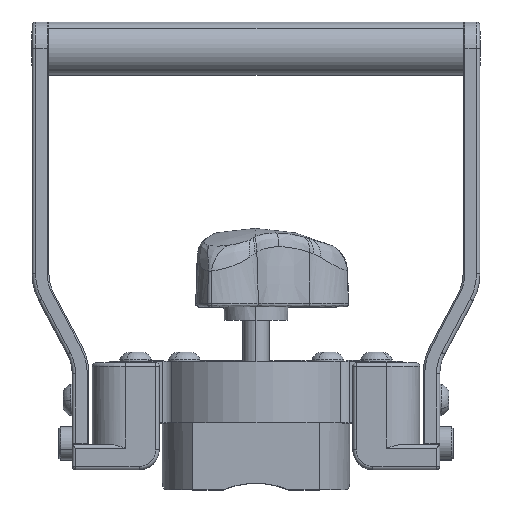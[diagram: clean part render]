
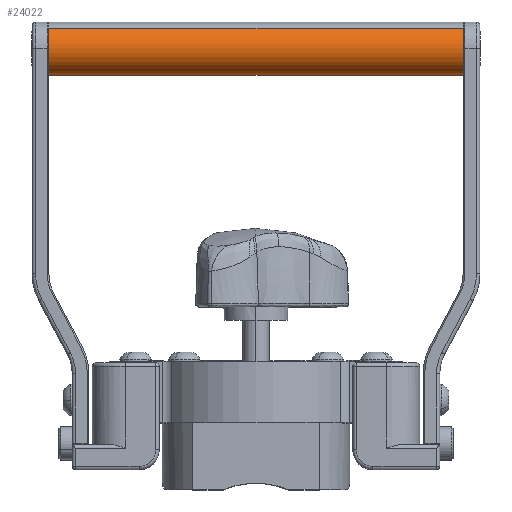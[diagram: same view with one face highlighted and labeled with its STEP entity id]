
A CAD part, top view. The second image highlights one B-rep face of the part: STEP entity #24022.
In plain terms, the highlighted cylindrical face has radius 7.938 mm (diameter 15.875 mm), a partial arc.
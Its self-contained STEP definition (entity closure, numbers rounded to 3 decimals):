
#1509 = CARTESIAN_POINT ( 'NONE',  ( -56.505, 132.113, 20.625 ) ) ;
#1512 = DIRECTION ( 'NONE',  ( 1., 0., 0. ) ) ;
#1515 = DIRECTION ( 'NONE',  ( 0., -0.77, -0.638 ) ) ;
#7196 = CARTESIAN_POINT ( 'NONE',  ( -56.505, 126.002, 15.559 ) ) ;
#7202 = CARTESIAN_POINT ( 'NONE',  ( 67.495, 138.223, 25.691 ) ) ;
#9457 = EDGE_CURVE ( 'NONE', #28125, #29426, #23536, .T. ) ;
#9459 = EDGE_CURVE ( 'NONE', #29582, #28131, #23533, .T. ) ;
#10954 = ORIENTED_EDGE ( 'NONE', *, *, #9459, .F. ) ;
#10955 = ORIENTED_EDGE ( 'NONE', *, *, #20158, .F. ) ;
#10956 = ORIENTED_EDGE ( 'NONE', *, *, #9457, .T. ) ;
#10957 = ORIENTED_EDGE ( 'NONE', *, *, #20170, .T. ) ;
#17354 = CARTESIAN_POINT ( 'NONE',  ( 67.495, 126.002, 15.559 ) ) ;
#17366 = CARTESIAN_POINT ( 'NONE',  ( -56.505, 138.223, 25.691 ) ) ;
#18647 = CIRCLE ( 'NONE', #22761, 7.937 ) ;
#18664 = CIRCLE ( 'NONE', #22769, 7.937 ) ;
#20158 = EDGE_CURVE ( 'NONE', #28125, #29582, #18647, .T. ) ;
#20170 = EDGE_CURVE ( 'NONE', #29426, #28131, #18664, .T. ) ;
#22761 = AXIS2_PLACEMENT_3D ( 'NONE', #35854, #35858, #35860 ) ;
#22769 = AXIS2_PLACEMENT_3D ( 'NONE', #35906, #35926, #35928 ) ;
#23060 = AXIS2_PLACEMENT_3D ( 'NONE', #1509, #1512, #1515 ) ;
#23522 = VECTOR ( 'NONE', #31757, 1000. ) ;
#23533 = LINE ( 'NONE', #31724, #23538 ) ;
#23536 = LINE ( 'NONE', #31803, #23522 ) ;
#23538 = VECTOR ( 'NONE', #31754, 1000. ) ;
#24022 = ADVANCED_FACE ( 'NONE', ( #31089 ), #31096, .T. ) ;
#28125 = VERTEX_POINT ( 'NONE', #7196 ) ;
#28131 = VERTEX_POINT ( 'NONE', #7202 ) ;
#29426 = VERTEX_POINT ( 'NONE', #17354 ) ;
#29582 = VERTEX_POINT ( 'NONE', #17366 ) ;
#30647 = EDGE_LOOP ( 'NONE', ( #10954, #10955, #10956, #10957 ) ) ;
#31089 = FACE_OUTER_BOUND ( 'NONE', #30647, .T. ) ;
#31096 = CYLINDRICAL_SURFACE ( 'NONE', #23060, 7.937 ) ;
#31724 = CARTESIAN_POINT ( 'NONE',  ( -56.505, 138.223, 25.691 ) ) ;
#31754 = DIRECTION ( 'NONE',  ( 1., 0., 0. ) ) ;
#31757 = DIRECTION ( 'NONE',  ( 1., 0., 0. ) ) ;
#31803 = CARTESIAN_POINT ( 'NONE',  ( -56.505, 126.002, 15.559 ) ) ;
#35854 = CARTESIAN_POINT ( 'NONE',  ( -56.505, 132.113, 20.625 ) ) ;
#35858 = DIRECTION ( 'NONE',  ( -1., 0., 0. ) ) ;
#35860 = DIRECTION ( 'NONE',  ( 0., 0.77, 0.638 ) ) ;
#35906 = CARTESIAN_POINT ( 'NONE',  ( 67.495, 132.112, 20.625 ) ) ;
#35926 = DIRECTION ( 'NONE',  ( -1., 0., 0. ) ) ;
#35928 = DIRECTION ( 'NONE',  ( 0., 0.77, 0.638 ) ) ;
